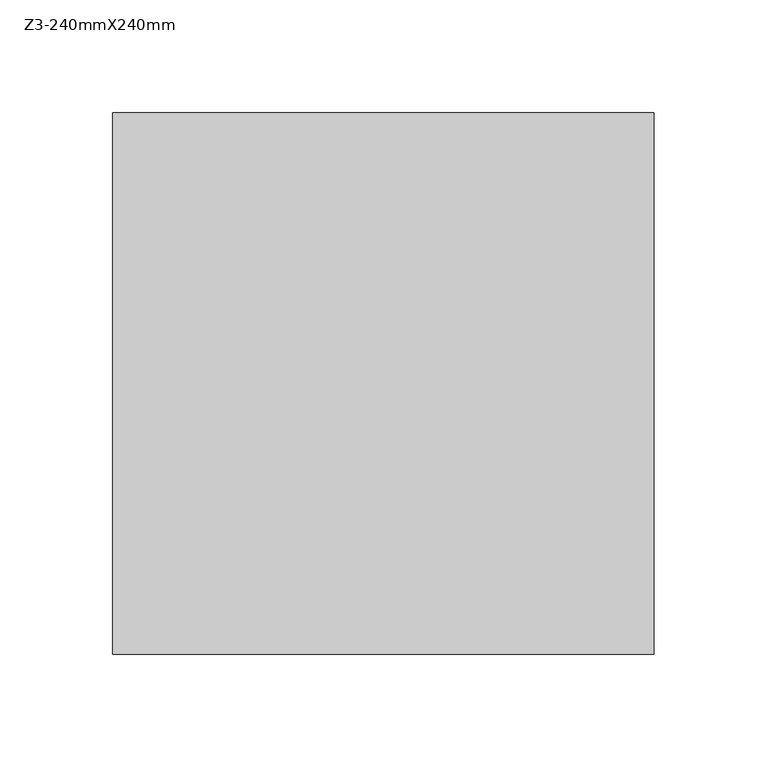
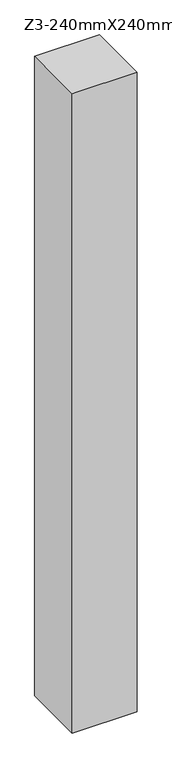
"""IFC4 building model written with IfcOpenShell, lengths in millimetres: column geometry, 混凝土 - 矩形 - 柱 : Z3-240mmX240mm."""

from ifc_helpers import new_model, si_unit, frame, origin, place, context, project, spatial, polyline, outline, extrude, source, transform, mapped, element, save


def z3_240mmx240mm_fbb31d3a(model_context):
    return source(origin(), model_context, "Body", "SweptSolid", [
        extrude(outline(polyline([(120.0, 120.0), (120.0, -120.0), (-120.0, -120.0), (-120.0, 120.0), (120.0, 120.0)])), frame((0.0, 0.0, 7200.0), z_axis=(0.0, 0.0, 1.0), x_axis=(1.0, 0.0, 0.0)), (0.0, 0.0, 1.0), 2500.0),
    ])


if __name__ == "__main__":
    model = new_model("IFC4")
    model_context = context("Model", 3, world=origin())
    ifc_project = project(units=[si_unit("LENGTHUNIT", "METRE", prefix="MILLI")], contexts=[model_context])
    site = spatial("IfcSite", under=ifc_project)
    building = spatial("IfcBuilding", under=site)
    placement = place(None, origin())
    z3_240mmx240mm_shape = z3_240mmx240mm_fbb31d3a(model_context)
    element("IfcColumn", 1, ObjectType="混凝土 - 矩形 - 柱 : Z3-240mmX240mm", at=placement, inside=building, context=model_context, shape_type="MappedRepresentation", body=[
        mapped(z3_240mmx240mm_shape, transform((0.0, 0.0, 0.0), x_axis=(1.0, 0.0, 0.0), y_axis=(0.0, 1.0, 0.0), z_axis=(0.0, 0.0, 1.0))),
    ])
    save(model, "model.ifc")
